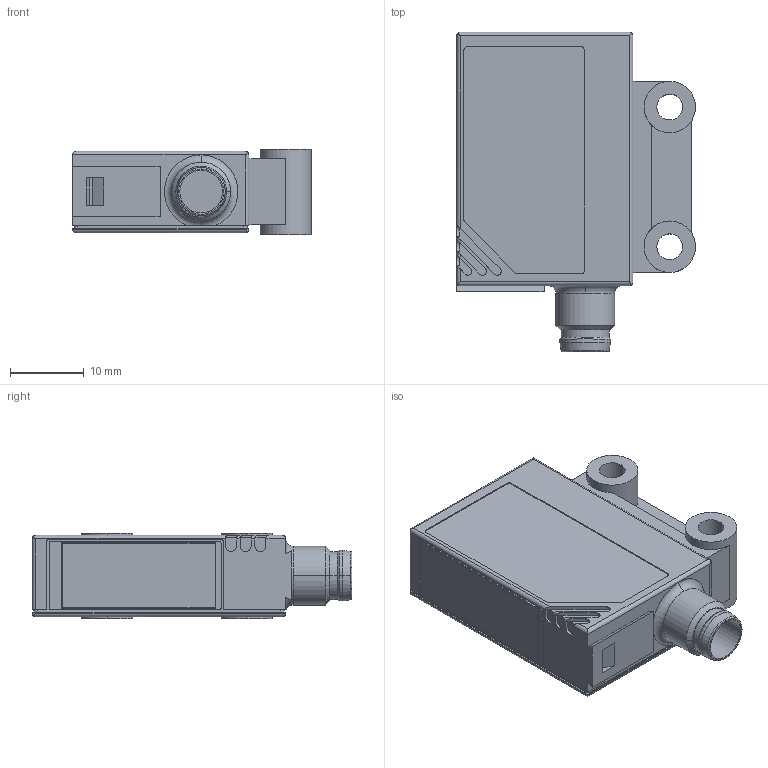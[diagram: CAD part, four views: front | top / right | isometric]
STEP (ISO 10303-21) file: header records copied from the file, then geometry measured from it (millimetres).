
FILE_DESCRIPTION( ( '' ), '1' );
FILE_NAME( '//partserver001.servicenet/client_exchange/iodir/jobs/output/wkb12435916_no0/STEP/ojh200_2_03.stp', '2008-10-08T12:20:01', ( '' ), ( '' ), ' ', ' ', ' ' );
FILE_SCHEMA( ( 'CONFIG_CONTROL_DESIGN' ) );
Length unit declared in the file: millimetre
Products named in the file (2): 1; 2
Bounding box: 32.5 x 43.5 x 11.6 mm (x, y, z)
Volume: 10609.1 mm3; surface area: 4812 mm2
Topology: 2 solids, 2 shells, 196 faces, 514 edges, 333 vertices
Faces by surface type: plane 112, cylinder 70, cone 10, torus 4
Entity records: 6169 total; most frequent: DIRECTION 1085, CARTESIAN_POINT 1079, ORIENTED_EDGE 1028, EDGE_CURVE 514, AXIS2_PLACEMENT_3D 375, LINE 335, VECTOR 335, VERTEX_POINT 333
